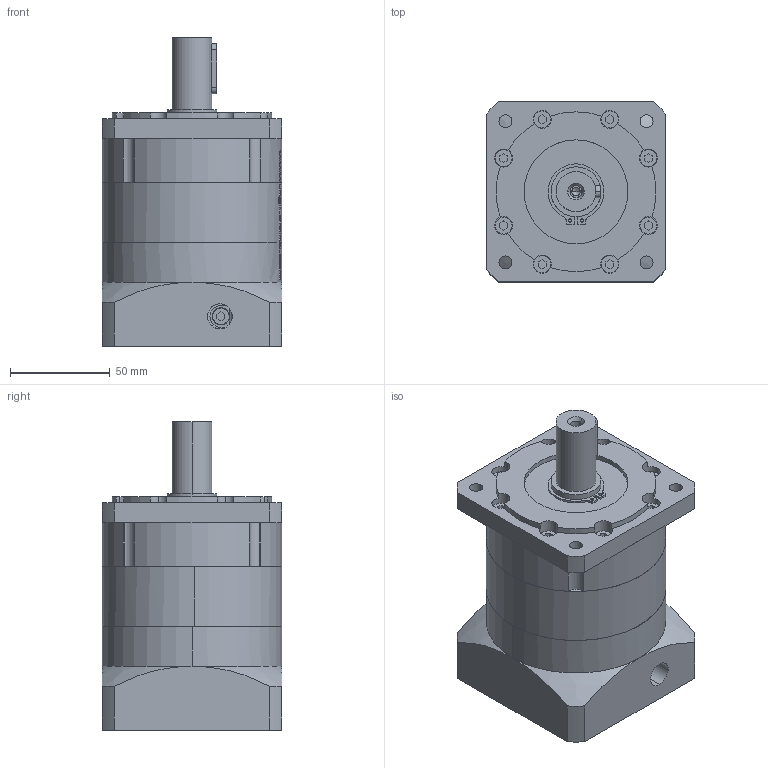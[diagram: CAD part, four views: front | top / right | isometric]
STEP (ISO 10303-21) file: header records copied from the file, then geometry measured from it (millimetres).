
FILE_DESCRIPTION (( 'STEP AP203' ), '1' );
FILE_NAME ('PLF90-L1.STEP', '2019-03-06T11:23:37', ( '' ), ( '' ), 'SwSTEP 2.0', 'SolidWorks 2014', '' );
FILE_SCHEMA (( 'CONFIG_CONTROL_DESIGN' ));
Length unit declared in the file: millimetre
Products named in the file (8): PRF90 蟀諉啣-梓袧_D8-70 D9-90 D10-M5 A2-90 L4-32 L6-47(32+15) L7-6 R-59.5梓袧; PRF90 κｳﾝﾈｦ_ﾒｻｼｶﾄﾚｳﾝﾈｦ; PRF90 奻屳唳_梓袧; PRF90 狟屳唳_D6-90 D7-19 梓袧; 囀鞠褒蹟佪 M5℅20; 邧埴瑩 6x6x25; 粣創-6007 35x62x14; PLF90-L1
Assembly tree (7 placements, depth 2):
  PLF90-L1
    PRF90 蟀諉啣-梓袧_D8-70 D9-90 D10-M5 A2-90 L4-32 L6-47(32+15) L7-6 R-59.5梓袧
    PRF90 κｳﾝﾈｦ_ﾒｻｼｶﾄﾚｳﾝﾈｦ
    PRF90 奻屳唳_梓袧
    PRF90 狟屳唳_D6-90 D7-19 梓袧
    囀鞠褒蹟佪 M5℅20
    邧埴瑩 6x6x25
    粣創-6007 35x62x14
Bounding box: 90 x 90 x 154.5 mm (x, y, z)
Volume: 712244.2 mm3; surface area: 147886.2 mm2
Topology: 7 solids, 7 shells, 1194 faces, 3325 edges, 2198 vertices
Faces by surface type: plane 608, bspline 352, cylinder 220, cone 14
Entity records: 53552 total; most frequent: CARTESIAN_POINT 24503, ORIENTED_EDGE 6630, DIRECTION 4791, EDGE_CURVE 3315, VERTEX_POINT 2198, LINE 1613, VECTOR 1613, AXIS2_PLACEMENT_3D 1589
